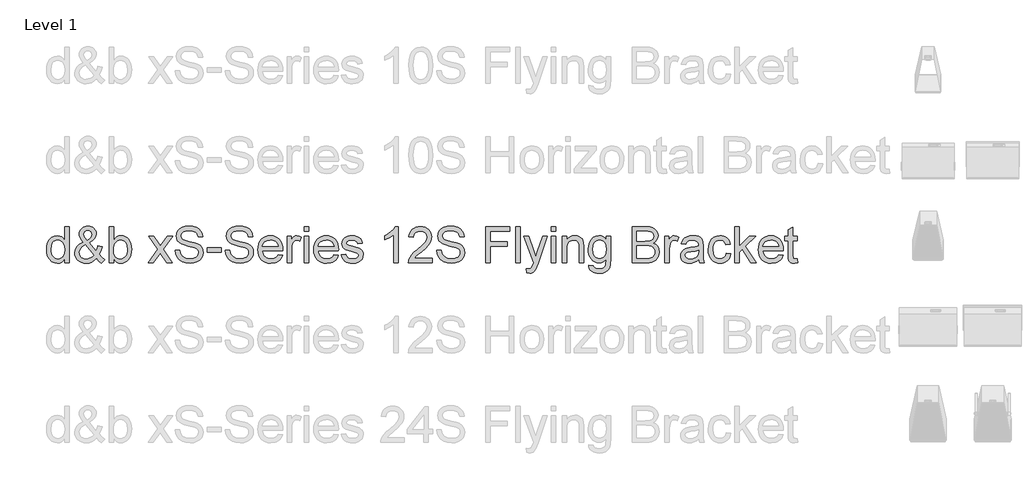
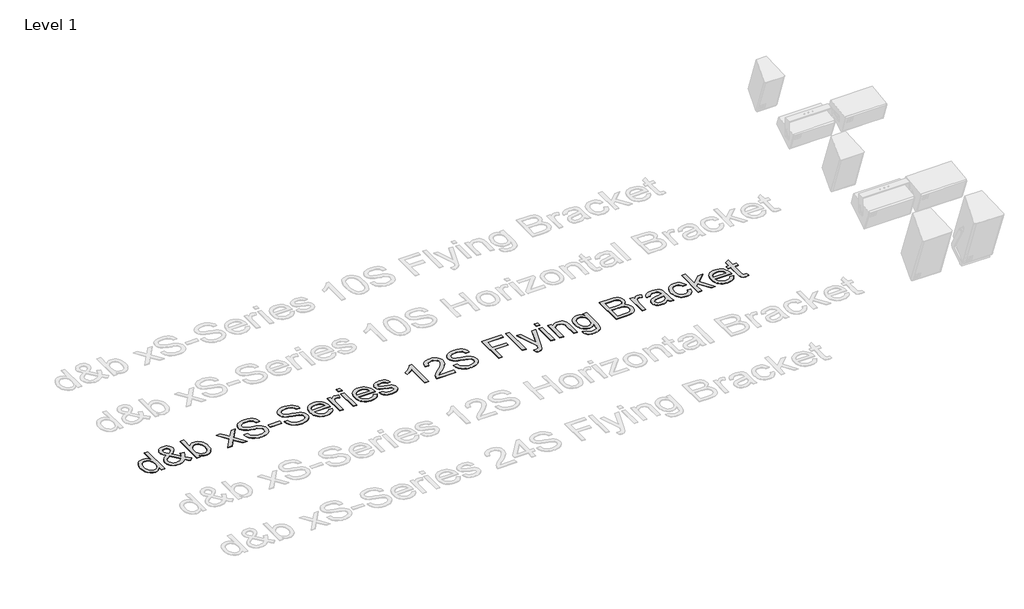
# One storey, part 34 of 55: 1 proxy.
"""IFC4 building model written with IfcOpenShell, lengths in millimetres."""

from ifc_helpers import new_model, si_unit, origin, origin_with_axes, place, context, project, spatial, polyline, outline, extrude, element, save

model = new_model("IFC4")

# Units and contexts
model_context = context("Model", 3, world=origin())
ifc_project = project(units=[si_unit("LENGTHUNIT", "METRE", prefix="MILLI")], contexts=[model_context])

# Site, building, storey
site = spatial("IfcSite", under=ifc_project)
building = spatial("IfcBuilding", under=site)
storey = spatial("IfcBuildingStorey", under=building, Name="Level 1", Elevation=0.0)

# Proxy
placement = place(None, origin())
element("IfcBuildingElementProxy", 1, Name="400mm Arial", ObjectType="400mm Arial", at=placement, inside=storey, context=model_context, shape_type="SweptSolid", body=[
    extrude(outline(polyline([(-20879.8211974, -1648.6945164), (-20879.8211974, -1601.3113154), (-20894.8491769, -1624.7883181), (-20913.0532043, -1641.5576057), (-20934.4332796, -1651.6191783), (-20958.9894028, -1654.9730358), (-20991.4611202, -1650.1169935), (-21021.1859854, -1635.5488665), (-21046.3491139, -1612.2864616), (-21065.1356211, -1581.3475858), (-21076.8342686, -1543.9830379), (-21080.7338177, -1501.4436165), (-21077.1408369, -1459.4314926), (-21066.3618944, -1421.4905962), (-21048.4092531, -1389.7791682), (-21023.2951755, -1366.4554497), (-20992.9203855, -1352.1080519), (-20959.1856065, -1347.325586), (-20934.6110892, -1350.7468885), (-20912.8815261, -1361.0107962), (-20894.4629008, -1376.7438829), (-20879.8211974, -1396.5727224), (-20879.8211974, -1246.8692758), (-20829.5930424, -1246.8692758), (-20829.5930424, -1648.6945164), (-20879.8211974, -1648.6945164)]), holes=[polyline([(-21030.5056627, -1501.2474128), (-21029.089317, -1525.6042665), (-21024.8402799, -1546.6808392), (-21017.7585515, -1564.4771307), (-21007.8441318, -1578.9931411), (-20983.1469871, -1598.3069458), (-20969.2717046, -1603.135397), (-20954.3786151, -1604.7448807), (-20939.415015, -1603.2089734), (-20925.6225058, -1598.6012514), (-20901.5507606, -1580.1703635), (-20892.0440767, -1566.2613584), (-20885.2535882, -1549.1088603), (-20879.8211974, -1505.0733855), (-20885.3516901, -1456.9298951), (-20892.2648059, -1438.3947739), (-20901.9431681, -1423.5507354), (-20913.6448812, -1412.1770504), (-20926.6280499, -1404.0529896), (-20940.8926743, -1399.1785532), (-20956.4387543, -1397.5537411), (-20971.6261493, -1399.1141738), (-20985.5014319, -1403.7954722), (-20998.064602, -1411.5976362), (-21009.3156597, -1422.5206658), (-21018.586286, -1436.8036843), (-21025.2081619, -1454.6858149), (-21030.5056627, -1501.2474128)])]), origin_with_axes(), (0.0, 0.0, 1.0), 5.0),
    extrude(outline(polyline([(-20523.809528, -1599.0549725), (-20549.3405384, -1623.5191252), (-20577.0788409, -1640.99352), (-20607.0734862, -1651.4781569), (-20639.3735254, -1654.9730358), (-20668.6814577, -1652.3855991), (-20694.8010793, -1644.623289), (-20717.7323904, -1631.6861055), (-20737.4753908, -1613.5740486), (-20750.308341, -1596.2038871), (-20759.4747341, -1577.8404442), (-20764.9745699, -1558.4837198), (-20766.8078485, -1538.1337141), (-20760.9094739, -1502.9396699), (-20743.2143499, -1471.3263438), (-20713.796053, -1443.3182613), (-20672.7281596, -1418.9399477), (-20694.6416638, -1390.5885086), (-20707.7995765, -1368.1231814), (-20714.3846642, -1348.9442668), (-20716.5796934, -1330.4520651), (-20714.8506481, -1312.8979626), (-20709.6635119, -1296.5333452), (-20701.018285, -1281.3582129), (-20688.9149674, -1267.3725657), (-20674.1935562, -1255.6555241), (-20657.6940487, -1247.2862088), (-20639.4164449, -1242.2646195), (-20619.3607448, -1240.5907564), (-20600.212487, -1242.1910431), (-20582.8913764, -1246.9919032), (-20567.397413, -1254.9933366), (-20553.7305969, -1266.1953433), (-20542.5715097, -1279.6414302), (-20534.6007332, -1294.3751041), (-20529.8182672, -1310.396365), (-20528.2241119, -1327.7052129), (-20532.9452642, -1355.68877), (-20547.108721, -1381.563137), (-20570.7144823, -1405.3283139), (-20603.7625482, -1426.9843007), (-20531.069066, -1517.5323224), (-20518.6837055, -1491.6579554), (-20509.3885538, -1461.9085647), (-20459.1603987, -1472.7978718), (-20474.6114425, -1519.3226815), (-20494.6732739, -1555.4977443), (-20466.1256311, -1588.8033276), (-20434.0463211, -1616.3209009), (-20471.7174374, -1654.9730358), (-20497.3465498, -1631.52669), (-20523.809528, -1599.0549725)]), holes=[polyline([(-20557.4584678, -1562.8553842), (-20647.1235727, -1450.9211558), (-20681.3733865, -1472.7733463), (-20702.305872, -1493.0068561), (-20713.0112381, -1512.3329235), (-20716.5796934, -1531.4627873), (-20711.6991256, -1555.1543878), (-20697.0574222, -1579.7289051), (-20686.2784798, -1590.6733944), (-20673.4639236, -1598.4908868), (-20658.6137537, -1603.1813823), (-20641.7279702, -1604.7448807), (-20619.0051256, -1601.8263502), (-20595.5710425, -1593.0707588), (-20574.1480476, -1579.6798541), (-20557.4584678, -1562.8553842)]), polyline([(-20629.1709314, -1395.2973981), (-20602.9041569, -1378.6323438), (-20587.8700461, -1364.1500559), (-20580.8067117, -1350.0601755), (-20578.452267, -1334.5723435), (-20581.5547385, -1317.0243723), (-20590.862153, -1303.0325938), (-20604.829406, -1293.8723321), (-20621.9113933, -1290.8189115), (-20639.3612626, -1293.8478066), (-20653.6473468, -1302.9344919), (-20663.1754905, -1316.3867102), (-20666.3515384, -1332.5122043), (-20662.0350563, -1350.9063041), (-20648.9875082, -1371.360543), (-20629.1709314, -1395.2973981)])]), origin_with_axes(), (0.0, 0.0, 1.0), 5.0),
    extrude(outline(polyline([(-20333.590011, -1648.6945164), (-20383.8181661, -1648.6945164), (-20383.8181661, -1246.8692758), (-20333.590011, -1246.8692758), (-20333.590011, -1395.8860093), (-20317.0721094, -1374.6408241), (-20298.4204923, -1359.4656918), (-20277.6351595, -1350.3606124), (-20254.7161112, -1347.325586), (-20228.8417442, -1350.0601755), (-20204.3898543, -1358.263944), (-20182.758393, -1371.4218567), (-20165.3453119, -1389.0188788), (-20151.6968898, -1410.883332), (-20141.3594058, -1436.8435381), (-20134.8478945, -1465.8203766), (-20132.6773907, -1496.734727), (-20134.9245365, -1532.4070178), (-20141.6659741, -1563.7873519), (-20152.9017034, -1590.8757295), (-20168.6317244, -1613.6721505), (-20187.5132678, -1631.7412878), (-20208.2035643, -1644.6478145), (-20230.702614, -1652.3917305), (-20255.0104168, -1654.9730358), (-20278.6836232, -1651.6437038), (-20299.671291, -1641.6557076), (-20317.9734203, -1625.0090473), (-20333.590011, -1601.7037229), (-20333.590011, -1648.6945164)]), holes=[polyline([(-20333.590011, -1499.0891717), (-20330.1564457, -1540.9786682), (-20319.8557498, -1569.3301073), (-20307.6849872, -1584.8240707), (-20293.5399244, -1595.8911874), (-20277.4205617, -1602.5314574), (-20259.3268989, -1604.7448807), (-20244.3050508, -1603.1139372), (-20230.3377977, -1598.2211067), (-20217.4251396, -1590.0663891), (-20205.5670767, -1578.6497845), (-20195.6526569, -1564.0019498), (-20188.5709285, -1546.1535416), (-20184.3218914, -1525.1045601), (-20182.9055458, -1500.8550053), (-20188.3379366, -1454.8942814), (-20195.1284251, -1437.1010555), (-20204.6351089, -1422.7659205), (-20216.0670419, -1411.735592), (-20228.6332778, -1403.8567859), (-20242.3338164, -1399.1295023), (-20257.1686579, -1397.5537411), (-20272.190506, -1399.1846846), (-20286.1577591, -1404.0775151), (-20299.0704171, -1412.2322327), (-20310.9284801, -1423.6488372), (-20320.8428999, -1438.1495192), (-20327.9246283, -1455.556469), (-20332.1736653, -1475.8696865), (-20333.590011, -1499.0891717)])]), origin_with_axes(), (0.0, 0.0, 1.0), 5.0),
    extrude(outline(polyline([(-19950.6003285, -1648.6945164), (-19843.2768878, -1500.2663941), (-19944.3218092, -1353.6041054), (-19884.0872638, -1353.6041054), (-19835.3306367, -1424.3355503), (-19812.4729021, -1457.5920827), (-19792.6563253, -1430.3197641), (-19737.1306695, -1353.6041054), (-19676.6999204, -1353.6041054), (-19782.8461387, -1500.364496), (-19680.623995, -1648.6945164), (-19740.9566422, -1648.6945164), (-19802.5646137, -1559.4218189), (-19813.7482263, -1543.0388074), (-19890.1695795, -1648.6945164), (-19950.6003285, -1648.6945164)])), origin_with_axes(), (0.0, 0.0, 1.0), 5.0),
    extrude(outline(polyline([(-19649.2313981, -1510.56709), (-19599.003243, -1510.56709), (-19593.2397584, -1538.4402825), (-19582.8164352, -1560.844296), (-19566.556051, -1578.6252591), (-19543.2813835, -1592.6293004), (-19514.8318425, -1601.7159856), (-19483.0468381, -1604.7448807), (-19455.063281, -1602.4517496), (-19430.5623402, -1595.5723563), (-19410.7089752, -1584.6830493), (-19396.6681457, -1570.3601769), (-19388.3172244, -1553.9158517), (-19385.533584, -1536.6621862), (-19387.6182486, -1519.849979), (-19393.8722425, -1505.3186402), (-19406.5764341, -1492.9210169), (-19428.0116917, -1482.5099565), (-19501.1466323, -1463.3310418), (-19549.1552327, -1450.639113), (-19579.8733793, -1438.5603208), (-19604.8770922, -1421.6622745), (-19622.5967416, -1401.1835101), (-19633.1549549, -1377.565486), (-19636.6743593, -1351.2496606), (-19632.3210891, -1321.8313637), (-19619.2612782, -1294.3996296), (-19597.8382834, -1271.1494875), (-19568.395461, -1254.2759667), (-19533.054264, -1244.012059), (-19493.9361452, -1240.5907564), (-19451.5561394, -1244.1714745), (-19414.4736342, -1254.9136288), (-19384.013005, -1272.59649), (-19361.4986269, -1296.999329), (-19347.249331, -1326.6015669), (-19341.5839483, -1359.8826247), (-19391.8121033, -1359.8826247), (-19401.0336787, -1329.9125049), (-19409.3968627, -1318.0544419), (-19420.2616443, -1308.2810436), (-19450.3053406, -1295.1844445), (-19491.9741079, -1290.8189115), (-19534.6238939, -1295.1353936), (-19550.9271976, -1300.5309962), (-19563.8827752, -1308.0848398), (-19580.805347, -1327.1411272), (-19586.4462043, -1349.7781326), (-19582.4485532, -1369.0796746), (-19570.4556002, -1384.6042948), (-19542.1041611, -1398.4857088), (-19488.4424407, -1412.6614283), (-19433.0639377, -1426.1259093), (-19399.5621507, -1437.8736077), (-19370.9286687, -1456.0960292), (-19350.9526764, -1478.5858819), (-19339.2172408, -1505.097911), (-19335.3054289, -1535.3868619), (-19339.805852, -1566.3502632), (-19353.3071212, -1595.4742545), (-19375.2574136, -1620.5392811), (-19405.1049061, -1639.3257883), (-19440.9979261, -1651.0612239), (-19481.0848008, -1654.9730358), (-19530.2951491, -1650.7546556), (-19570.7989567, -1638.099515), (-19603.0622077, -1616.958563), (-19627.5508858, -1587.2827487), (-19643.2717098, -1551.1322113), (-19649.2313981, -1510.56709)])), origin_with_axes(), (0.0, 0.0, 1.0), 5.0),
    extrude(outline(polyline([(-19291.3557932, -1529.4026481), (-19291.3557932, -1479.174493), (-19134.3928086, -1479.174493), (-19134.3928086, -1529.4026481), (-19291.3557932, -1529.4026481)])), origin_with_axes(), (0.0, 0.0, 1.0), 5.0),
    extrude(outline(polyline([(-19090.4431729, -1510.56709), (-19040.2150178, -1510.56709), (-19034.4515332, -1538.4402825), (-19024.02821, -1560.844296), (-19007.7678258, -1578.6252591), (-18984.4931583, -1592.6293004), (-18956.0436173, -1601.7159856), (-18924.2586129, -1604.7448807), (-18896.2750558, -1602.4517496), (-18871.774115, -1595.5723563), (-18851.9207499, -1584.6830493), (-18837.8799205, -1570.3601769), (-18829.5289992, -1553.9158517), (-18826.7453587, -1536.6621862), (-18828.8300234, -1519.849979), (-18835.0840173, -1505.3186402), (-18847.7882089, -1492.9210169), (-18869.2234665, -1482.5099565), (-18942.3584071, -1463.3310418), (-18990.3670075, -1450.639113), (-19021.0851541, -1438.5603208), (-19046.088867, -1421.6622745), (-19063.8085164, -1401.1835101), (-19074.3667297, -1377.565486), (-19077.8861341, -1351.2496606), (-19073.5328638, -1321.8313637), (-19060.473053, -1294.3996296), (-19039.0500582, -1271.1494875), (-19009.6072358, -1254.2759667), (-18974.2660388, -1244.012059), (-18935.14792, -1240.5907564), (-18892.7679141, -1244.1714745), (-18855.685409, -1254.9136288), (-18825.2247798, -1272.59649), (-18802.7104017, -1296.999329), (-18788.4611058, -1326.6015669), (-18782.7957231, -1359.8826247), (-18833.0238781, -1359.8826247), (-18842.2454535, -1329.9125049), (-18850.6086375, -1318.0544419), (-18861.4734191, -1308.2810436), (-18891.5171154, -1295.1844445), (-18933.1858827, -1290.8189115), (-18975.8356687, -1295.1353936), (-18992.1389724, -1300.5309962), (-19005.09455, -1308.0848398), (-19022.0171218, -1327.1411272), (-19027.657979, -1349.7781326), (-19023.660328, -1369.0796746), (-19011.667375, -1384.6042948), (-18983.3159359, -1398.4857088), (-18929.6542155, -1412.6614283), (-18874.2757125, -1426.1259093), (-18840.7739255, -1437.8736077), (-18812.1404435, -1456.0960292), (-18792.1644512, -1478.5858819), (-18780.4290156, -1505.097911), (-18776.5172037, -1535.3868619), (-18781.0176267, -1566.3502632), (-18794.518896, -1595.4742545), (-18816.4691883, -1620.5392811), (-18846.3166809, -1639.3257883), (-18882.2097009, -1651.0612239), (-18922.2965756, -1654.9730358), (-18971.5069238, -1650.7546556), (-19012.0107315, -1638.099515), (-19044.2739825, -1616.958563), (-19068.7626606, -1587.2827487), (-19084.4834846, -1551.1322113), (-19090.4431729, -1510.56709)])), origin_with_axes(), (0.0, 0.0, 1.0), 5.0),
    extrude(outline(polyline([(-18500.850962, -1560.795245), (-18451.6038255, -1567.0737644), (-18459.1546035, -1586.7983707), (-18469.3480004, -1604.180795), (-18482.1840164, -1619.2210372), (-18497.6626513, -1631.9190974), (-18515.6244897, -1642.0051955), (-18535.9101161, -1649.2095512), (-18583.4527326, -1654.9730358), (-18614.618469, -1652.4867667), (-18642.3874282, -1645.0279592), (-18666.7596104, -1632.5966135), (-18687.7350155, -1615.1927294), (-18704.602405, -1593.300685), (-18716.6505403, -1567.4048582), (-18723.8794215, -1537.5052491), (-18726.2890486, -1503.6018575), (-18723.8548961, -1468.5488348), (-18716.5524385, -1437.6528785), (-18704.3816758, -1410.9139888), (-18687.342608, -1388.3321657), (-18666.4223852, -1370.3917871), (-18642.6081574, -1357.5772309), (-18615.8999246, -1349.8884972), (-18586.2976867, -1347.325586), (-18557.6488763, -1349.8823658), (-18531.7407868, -1357.5527054), (-18508.5734182, -1370.3366048), (-18488.1467704, -1388.2340638), (-18471.472519, -1410.766836), (-18459.5623394, -1437.4566748), (-18452.4162316, -1468.3035801), (-18450.0341957, -1503.3075519), (-18450.3285013, -1516.8456094), (-18676.0608935, -1516.8456094), (-18673.1515601, -1536.8890467), (-18667.3666157, -1554.4431493), (-18658.7060604, -1569.507917), (-18647.1698942, -1582.0833498), (-18633.3957791, -1591.9977696), (-18618.0213774, -1599.079498), (-18582.4717139, -1604.7448807), (-18555.7389556, -1602.1206558), (-18533.2245775, -1594.2479811), (-18514.9285796, -1580.6363473), (-18500.850962, -1560.795245)]), holes=[polyline([(-18676.0608935, -1466.6174543), (-18500.2623508, -1466.6174543), (-18507.0559049, -1440.0808997), (-18520.3732332, -1421.0981887), (-18534.0707061, -1410.7974929), (-18549.65664, -1403.439853), (-18567.1310348, -1399.025269), (-18586.4938904, -1397.5537411), (-18620.3512967, -1402.2503679), (-18648.3471166, -1416.3402483), (-18667.8080741, -1438.3028034), (-18676.0608935, -1466.6174543)])]), origin_with_axes(), (0.0, 0.0, 1.0), 5.0),
    extrude(outline(polyline([(-18399.8060406, -1648.6945164), (-18399.8060406, -1353.6041054), (-18355.8564049, -1353.6041054), (-18355.8564049, -1397.2594355), (-18339.6205462, -1371.9491542), (-18324.6600117, -1357.0376707), (-18309.6504263, -1349.7536071), (-18293.2674148, -1347.325586), (-18268.2514391, -1351.2006097), (-18242.843056, -1362.8256807), (-18259.618475, -1407.8544369), (-18277.2768108, -1400.128915), (-18294.9351465, -1397.5537411), (-18309.9324692, -1400.0308132), (-18323.3356365, -1407.4620295), (-18334.1636299, -1419.2833042), (-18341.4354307, -1434.9305518), (-18347.5422718, -1462.9876853), (-18349.5778855, -1493.5954673), (-18349.5778855, -1648.6945164), (-18399.8060406, -1648.6945164)])), origin_with_axes(), (0.0, 0.0, 1.0), 5.0),
    extrude(outline(polyline([(-18211.4504591, -1297.0974309), (-18211.4504591, -1246.8692758), (-18161.222304, -1246.8692758), (-18161.222304, -1297.0974309), (-18211.4504591, -1297.0974309)])), origin_with_axes(), (0.0, 0.0, 1.0), 5.0),
    extrude(outline(polyline([(-18211.4504591, -1648.6945164), (-18211.4504591, -1353.6041054), (-18161.222304, -1353.6041054), (-18161.222304, -1648.6945164), (-18211.4504591, -1648.6945164)])), origin_with_axes(), (0.0, 0.0, 1.0), 5.0),
    extrude(outline(polyline([(-17879.2775429, -1560.795245), (-17830.0304065, -1567.0737644), (-17837.5811844, -1586.7983707), (-17847.7745814, -1604.180795), (-17860.6105973, -1619.2210372), (-17876.0892323, -1631.9190974), (-17894.0510707, -1642.0051955), (-17914.336697, -1649.2095512), (-17961.8793136, -1654.9730358), (-17993.0450499, -1652.4867667), (-18020.8140092, -1645.0279592), (-18045.1861914, -1632.5966135), (-18066.1615965, -1615.1927294), (-18083.0289859, -1593.300685), (-18095.0771213, -1567.4048582), (-18102.3060025, -1537.5052491), (-18104.7156295, -1503.6018575), (-18102.281477, -1468.5488348), (-18094.9790194, -1437.6528785), (-18082.8082567, -1410.9139888), (-18065.769189, -1388.3321657), (-18044.8489662, -1370.3917871), (-18021.0347384, -1357.5772309), (-17994.3265055, -1349.8884972), (-17964.7242676, -1347.325586), (-17936.0754573, -1349.8823658), (-17910.1673678, -1357.5527054), (-17886.9999991, -1370.3366048), (-17866.5733513, -1388.2340638), (-17849.8990999, -1410.766836), (-17837.9889203, -1437.4566748), (-17830.8428126, -1468.3035801), (-17828.4607766, -1503.3075519), (-17828.7550822, -1516.8456094), (-18054.4874745, -1516.8456094), (-18051.578141, -1536.8890467), (-18045.7931967, -1554.4431493), (-18037.1326413, -1569.507917), (-18025.5964751, -1582.0833498), (-18011.8223601, -1591.9977696), (-17996.4479584, -1599.079498), (-17960.8982949, -1604.7448807), (-17934.1655366, -1602.1206558), (-17911.6511585, -1594.2479811), (-17893.3551606, -1580.6363473), (-17879.2775429, -1560.795245)]), holes=[polyline([(-18054.4874745, -1466.6174543), (-17878.6889317, -1466.6174543), (-17885.4824859, -1440.0808997), (-17898.7998141, -1421.0981887), (-17912.4972871, -1410.7974929), (-17928.0832209, -1403.439853), (-17945.5576157, -1399.025269), (-17964.9204714, -1397.5537411), (-17998.7778777, -1402.2503679), (-18026.7736975, -1416.3402483), (-18046.234655, -1438.3028034), (-18054.4874745, -1466.6174543)])]), origin_with_axes(), (0.0, 0.0, 1.0), 5.0),
    extrude(outline(polyline([(-17797.0681797, -1560.795245), (-17746.8400246, -1554.5167257), (-17738.918299, -1576.0010342), (-17723.5898825, -1591.7954345), (-17700.7566734, -1601.5075192), (-17670.3205696, -1604.7448807), (-17640.2523479, -1601.7772993), (-17619.1113959, -1592.874555), (-17606.6034081, -1579.9741597), (-17602.4340788, -1565.0136253), (-17606.6279335, -1552.2113318), (-17619.2094978, -1542.4501962), (-17670.9091808, -1528.1273239), (-17746.545719, -1503.5528066), (-17765.6878455, -1491.2042343), (-17779.5569967, -1474.858011), (-17787.9814944, -1455.556469), (-17790.7896603, -1434.3419406), (-17788.5333174, -1414.880983), (-17781.7642887, -1396.9160789), (-17771.0957109, -1381.1584668), (-17757.1407205, -1368.3193852), (-17725.2085633, -1353.4569526), (-17704.3251287, -1348.8584276), (-17681.9946916, -1347.325586), (-17649.302245, -1349.7903953), (-17620.8772295, -1357.1848234), (-17598.0194949, -1368.785369), (-17582.0288908, -1383.8685308), (-17571.4338893, -1403.5502176), (-17564.7629625, -1428.946338), (-17614.9911176, -1435.2248574), (-17621.3309506, -1419.4181943), (-17633.8757267, -1407.5110804), (-17652.748073, -1400.0430759), (-17678.070617, -1397.5537411), (-17706.9125654, -1399.9327113), (-17726.140531, -1407.069622), (-17736.9562617, -1417.3703179), (-17740.5615053, -1429.2406436), (-17734.5772915, -1443.8578215), (-17715.8398352, -1454.9433323), (-17672.5769125, -1465.6364356), (-17598.8533607, -1489.2789852), (-17579.3801404, -1500.5852252), (-17564.6158097, -1516.0607944), (-17555.3083952, -1535.7547439), (-17552.2059237, -1559.7161245), (-17555.8479555, -1584.4868455), (-17566.7740507, -1607.7860386), (-17584.5672766, -1627.7865564), (-17608.8107, -1642.6612517), (-17638.0941069, -1651.8950898), (-17671.0072827, -1654.9730358), (-17698.040478, -1653.4892451), (-17721.6523707, -1649.037873), (-17741.8429609, -1641.6189194), (-17758.6122485, -1631.2323844), (-17772.3097214, -1617.9273189), (-17783.2848676, -1601.7527738), (-17791.5376871, -1582.7087492), (-17797.0681797, -1560.795245)])), origin_with_axes(), (0.0, 0.0, 1.0), 5.0),
    extrude(outline(polyline([(-17162.9377219, -1648.6945164), (-17213.165877, -1648.6945164), (-17213.165877, -1335.5533621), (-17234.1351507, -1352.5127221), (-17260.7452817, -1369.4475566), (-17313.6221871, -1394.8068888), (-17313.6221871, -1347.325586), (-17274.1729745, -1325.8658029), (-17239.9967371, -1300.3347925), (-17213.0555124, -1273.1851012), (-17195.3113375, -1246.8692758), (-17162.9377219, -1246.8692758), (-17162.9377219, -1648.6945164)])), origin_with_axes(), (0.0, 0.0, 1.0), 5.0),
    extrude(outline(polyline([(-16786.2265588, -1598.4663614), (-16786.2265588, -1648.6945164), (-17049.924373, -1648.6945164), (-17048.820727, -1631.0116552), (-17044.5287704, -1614.0645579), (-17032.1311471, -1587.0007058), (-17013.9700393, -1560.7461941), (-16987.7155276, -1533.2654091), (-16951.0376927, -1502.522737), (-16896.8486748, -1454.3792466), (-16864.3646946, -1418.8418458), (-16848.1410986, -1389.9998974), (-16842.7332333, -1361.9427639), (-16847.846793, -1336.7918982), (-16863.1874722, -1315.8839381), (-16886.7687081, -1301.7940577), (-16916.6039379, -1297.0974309), (-16947.9352212, -1301.6836931), (-16972.2767465, -1315.4424797), (-16987.9853077, -1337.2946702), (-16993.4176985, -1366.1611441), (-17043.6458536, -1359.8826247), (-17039.3263058, -1333.9530755), (-17031.4689596, -1311.2976759), (-17020.0738147, -1291.9164261), (-17005.1408714, -1275.8093261), (-16987.0134861, -1263.1480541), (-16966.0350153, -1254.1042884), (-16942.2054591, -1248.678029), (-16915.5248174, -1246.8692758), (-16888.6050524, -1248.8803641), (-16864.6467375, -1254.9136288), (-16843.6498726, -1264.96907), (-16825.6144578, -1279.0466877), (-16811.1291042, -1296.1041495), (-16800.7824231, -1315.0991232), (-16794.5744144, -1336.0316087), (-16792.5050782, -1358.9016061), (-16794.7368957, -1382.9243004), (-16801.432348, -1406.5300617), (-16813.3149364, -1430.5404933), (-16831.1081622, -1455.7771982), (-16859.4718641, -1485.9067336), (-16903.0658805, -1524.5956567), (-16960.8478792, -1572.9108254), (-16983.5094101, -1598.4663614), (-16786.2265588, -1598.4663614)])), origin_with_axes(), (0.0, 0.0, 1.0), 5.0),
    extrude(outline(polyline([(-16735.9984038, -1510.56709), (-16685.7702487, -1510.56709), (-16680.0067641, -1538.4402825), (-16669.5834409, -1560.844296), (-16653.3230567, -1578.6252591), (-16630.0483891, -1592.6293004), (-16601.5988482, -1601.7159856), (-16569.8138438, -1604.7448807), (-16541.8302867, -1602.4517496), (-16517.3293458, -1595.5723563), (-16497.4759808, -1584.6830493), (-16483.4351513, -1570.3601769), (-16475.08423, -1553.9158517), (-16472.3005896, -1536.6621862), (-16474.3852543, -1519.849979), (-16480.6392482, -1505.3186402), (-16493.3434397, -1492.9210169), (-16514.7786973, -1482.5099565), (-16587.913638, -1463.3310418), (-16635.9222383, -1450.639113), (-16666.6403849, -1438.5603208), (-16691.6440979, -1421.6622745), (-16709.3637473, -1401.1835101), (-16719.9219606, -1377.565486), (-16723.441365, -1351.2496606), (-16719.0880947, -1321.8313637), (-16706.0282839, -1294.3996296), (-16684.605289, -1271.1494875), (-16655.1624667, -1254.2759667), (-16619.8212697, -1244.012059), (-16580.7031509, -1240.5907564), (-16538.323145, -1244.1714745), (-16501.2406399, -1254.9136288), (-16470.7800107, -1272.59649), (-16448.2656326, -1296.999329), (-16434.0163367, -1326.6015669), (-16428.3509539, -1359.8826247), (-16478.579109, -1359.8826247), (-16487.8006843, -1329.9125049), (-16496.1638684, -1318.0544419), (-16507.02865, -1308.2810436), (-16537.0723462, -1295.1844445), (-16578.7411136, -1290.8189115), (-16621.3908995, -1295.1353936), (-16637.6942033, -1300.5309962), (-16650.6497809, -1308.0848398), (-16667.5723527, -1327.1411272), (-16673.2132099, -1349.7781326), (-16669.2155589, -1369.0796746), (-16657.2226059, -1384.6042948), (-16628.8711668, -1398.4857088), (-16575.2094464, -1412.6614283), (-16519.8309434, -1426.1259093), (-16486.3291564, -1437.8736077), (-16457.6956744, -1456.0960292), (-16437.7196821, -1478.5858819), (-16425.9842464, -1505.097911), (-16422.0724345, -1535.3868619), (-16426.5728576, -1566.3502632), (-16440.0741268, -1595.4742545), (-16462.0244192, -1620.5392811), (-16491.8719118, -1639.3257883), (-16527.7649318, -1651.0612239), (-16567.8518065, -1654.9730358), (-16617.0621547, -1650.7546556), (-16657.5659624, -1638.099515), (-16689.8292134, -1616.958563), (-16714.3178915, -1587.2827487), (-16730.0387154, -1551.1322113), (-16735.9984038, -1510.56709)])), origin_with_axes(), (0.0, 0.0, 1.0), 5.0),
    extrude(outline(polyline([(-16189.7672173, -1648.6945164), (-16189.7672173, -1246.8692758), (-15919.7908838, -1246.8692758), (-15919.7908838, -1297.0974309), (-16139.5390622, -1297.0974309), (-16139.5390622, -1416.3892992), (-15951.1834807, -1416.3892992), (-15951.1834807, -1466.6174543), (-16139.5390622, -1466.6174543), (-16139.5390622, -1648.6945164), (-16189.7672173, -1648.6945164)])), origin_with_axes(), (0.0, 0.0, 1.0), 5.0),
    extrude(outline(polyline([(-15857.0056899, -1648.6945164), (-15857.0056899, -1246.8692758), (-15806.7775349, -1246.8692758), (-15806.7775349, -1648.6945164), (-15857.0056899, -1648.6945164)])), origin_with_axes(), (0.0, 0.0, 1.0), 5.0),
    extrude(outline(polyline([(-15731.4353023, -1761.7078653), (-15737.7138216, -1713.3436457), (-15712.2073366, -1717.7582297), (-15698.7919066, -1716.3725408), (-15688.3685834, -1712.2154743), (-15673.7514054, -1696.7644305), (-15660.0171443, -1659.7800272), (-15656.0930696, -1647.6153959), (-15762.8278992, -1353.6041054), (-15709.9509937, -1353.6041054), (-15653.2481156, -1517.5323224), (-15633.5296406, -1583.0643685), (-15613.8111657, -1525.086166), (-15555.6367595, -1353.6041054), (-15503.1522615, -1353.6041054), (-15605.8649146, -1655.7578507), (-15632.548622, -1721.2898968), (-15646.2093067, -1742.2101196), (-15661.684876, -1756.7046702), (-15679.6375173, -1765.1659561), (-15700.7294184, -1767.9863847), (-15731.4353023, -1761.7078653)])), origin_with_axes(), (0.0, 0.0, 1.0), 5.0),
    extrude(outline(polyline([(-15461.4589687, -1297.0974309), (-15461.4589687, -1246.8692758), (-15411.2308137, -1246.8692758), (-15411.2308137, -1297.0974309), (-15461.4589687, -1297.0974309)])), origin_with_axes(), (0.0, 0.0, 1.0), 5.0),
    extrude(outline(polyline([(-15461.4589687, -1648.6945164), (-15461.4589687, -1353.6041054), (-15411.2308137, -1353.6041054), (-15411.2308137, -1648.6945164), (-15461.4589687, -1648.6945164)])), origin_with_axes(), (0.0, 0.0, 1.0), 5.0),
    extrude(outline(polyline([(-15335.888581, -1648.6945164), (-15335.888581, -1353.6041054), (-15285.660426, -1353.6041054), (-15285.660426, -1394.8068888), (-15268.2105567, -1374.0338188), (-15247.2535457, -1359.1959117), (-15222.789393, -1350.2931674), (-15194.8180986, -1347.325586), (-15170.0596404, -1349.7168189), (-15147.3858467, -1356.8905179), (-15128.4767122, -1367.9515032), (-15115.0122311, -1382.0045954), (-15105.8764949, -1399.0130063), (-15099.9535948, -1418.9399477), (-15097.3048444, -1467.5003711), (-15097.3048444, -1648.6945164), (-15147.5329995, -1648.6945164), (-15147.5329995, -1474.2693998), (-15148.980002, -1448.2969309), (-15153.3210096, -1429.8292548), (-15161.3285743, -1416.5977657), (-15173.7752485, -1406.333858), (-15189.7290644, -1399.7487703), (-15208.2580542, -1397.5537411), (-15237.6763511, -1402.4833598), (-15262.7536404, -1417.272216), (-15272.7753591, -1429.3448768), (-15279.9337296, -1445.8443843), (-15284.2287519, -1466.7707384), (-15285.660426, -1492.1239393), (-15285.660426, -1648.6945164), (-15335.888581, -1648.6945164)])), origin_with_axes(), (0.0, 0.0, 1.0), 5.0),
    extrude(outline(polyline([(-15040.79817, -1673.808594), (-14990.5700149, -1680.0871133), (-14985.0272595, -1695.7834118), (-14974.2851053, -1706.574617), (-14953.1686787, -1714.9623265), (-14925.5284782, -1717.7582297), (-14896.0488676, -1714.5944445), (-14874.1231007, -1705.103089), (-14858.9173116, -1689.8972999), (-14849.5976344, -1669.5902138), (-14846.1640691, -1611.0234001), (-14862.8781744, -1627.5045135), (-14881.5297915, -1639.2767374), (-14902.1189205, -1646.3400717), (-14924.6455614, -1648.6945164), (-14952.1845944, -1645.9537956), (-14976.4310836, -1637.731633), (-14997.3850289, -1624.0280287), (-15015.0464303, -1604.8429826), (-15029.0596687, -1581.8258324), (-15039.0691246, -1556.6259158), (-15045.0747982, -1529.2432326), (-15047.0766894, -1499.6777829), (-15043.4837085, -1459.1249243), (-15032.7047661, -1421.8339527), (-15015.1200067, -1390.2328893), (-14991.1095752, -1366.7497553), (-14961.4950746, -1352.1816283), (-14927.098108, -1347.325586), (-14903.6088426, -1350.0724382), (-14882.290081, -1358.3129949), (-14863.1418231, -1372.0472561), (-14846.1640691, -1391.2752217), (-14846.1640691, -1353.6041054), (-14795.935914, -1353.6041054), (-14795.935914, -1608.3746498), (-14799.3694793, -1667.1989808), (-14809.6701751, -1705.9369549), (-14827.41435, -1731.6273809), (-14853.1783524, -1751.3090676), (-14886.3980966, -1763.8170555), (-14926.5094968, -1767.9863847), (-14951.1177366, -1766.5179224), (-14973.2427729, -1762.1125355), (-14992.8846058, -1754.7702241), (-15010.0432352, -1744.490988), (-15023.9031894, -1731.2625646), (-15033.6489965, -1715.0726911), (-15039.2806568, -1695.9213676), (-15040.79817, -1673.808594)]), holes=[polyline([(-14996.8485343, -1496.2442176), (-14991.4897199, -1542.3153062), (-14984.7912019, -1559.9521821), (-14975.4132767, -1573.9899459), (-14964.0120005, -1584.6983777), (-14951.2434296, -1592.3472575), (-14937.107564, -1596.9365854), (-14921.6044035, -1598.4663614), (-14906.2545273, -1596.9457824), (-14892.1861067, -1592.3840457), (-14879.3991416, -1584.7811511), (-14867.8936322, -1574.1370987), (-14858.3869484, -1560.2372907), (-14851.5964599, -1542.8671291), (-14846.1640691, -1497.7157456), (-14851.7558754, -1454.1707801), (-14858.7456333, -1436.9692312), (-14868.5312944, -1422.8149714), (-14880.2851241, -1411.7631831), (-14893.1793881, -1403.8690486), (-14907.2140862, -1399.1325679), (-14922.3892185, -1397.5537411), (-14937.3098991, -1399.1080425), (-14951.0717514, -1403.7709468), (-14975.1189711, -1422.4225639), (-14984.625655, -1436.3622259), (-14991.4161435, -1453.3123888), (-14996.8485343, -1496.2442176)])]), origin_with_axes(), (0.0, 0.0, 1.0), 5.0),
    extrude(outline(polyline([(-14557.3521774, -1648.6945164), (-14557.3521774, -1246.8692758), (-14404.0189618, -1246.8692758), (-14361.8474224, -1249.8245945), (-14328.9219838, -1258.6905506), (-14303.685279, -1273.6878733), (-14284.5799407, -1295.0372917), (-14272.5501995, -1320.1513693), (-14268.5402857, -1346.4426692), (-14271.9125373, -1370.6370417), (-14282.0292922, -1393.3844118), (-14298.9641267, -1413.2868277), (-14322.7906173, -1428.946338), (-14294.3288136, -1443.8087706), (-14273.2982262, -1466.4212506), (-14260.3119917, -1495.2877244), (-14255.9832469, -1528.9121388), (-14258.9385656, -1556.9324841), (-14267.8045217, -1582.9172157), (-14281.0360108, -1605.0146609), (-14297.0879285, -1621.3731469), (-14316.7450898, -1633.2189472), (-14340.7923096, -1641.7783349), (-14370.0144027, -1646.9654711), (-14405.1961842, -1648.6945164), (-14557.3521774, -1648.6945164)]), holes=[polyline([(-14507.1240223, -1598.4663614), (-14404.1170637, -1598.4663614), (-14366.8383548, -1596.504324), (-14335.2986051, -1585.5659661), (-14323.722585, -1576.1359242), (-14314.4029078, -1563.2477917), (-14308.2592785, -1547.4779168), (-14306.211402, -1529.4026481), (-14308.6148977, -1508.4088489), (-14315.8253848, -1490.3581057), (-14328.4192118, -1476.2436998), (-14346.9727271, -1467.0589127), (-14373.2517643, -1462.0189293), (-14409.0221569, -1460.3389349), (-14507.1240223, -1460.3389349), (-14507.1240223, -1598.4663614)]), polyline([(-14507.1240223, -1410.1107798), (-14415.3987782, -1410.1107798), (-14361.8351597, -1405.7942977), (-14343.0854407, -1398.3508187), (-14329.6086969, -1387.2039943), (-14321.4785048, -1372.5255026), (-14318.7684408, -1354.4870222), (-14321.2945638, -1336.9758392), (-14328.8729329, -1321.7209991), (-14341.1601916, -1309.8138852), (-14357.8129832, -1302.3458807), (-14383.3685191, -1298.4095434), (-14422.3640106, -1297.0974309), (-14507.1240223, -1297.0974309), (-14507.1240223, -1410.1107798)])]), origin_with_axes(), (0.0, 0.0, 1.0), 5.0),
    extrude(outline(polyline([(-14193.1980531, -1648.6945164), (-14193.1980531, -1353.6041054), (-14149.2484174, -1353.6041054), (-14149.2484174, -1397.2594355), (-14133.0125587, -1371.9491542), (-14118.0520242, -1357.0376707), (-14103.0424388, -1349.7536071), (-14086.6594273, -1347.325586), (-14061.6434516, -1351.2006097), (-14036.2350685, -1362.8256807), (-14053.0104875, -1407.8544369), (-14070.6688232, -1400.128915), (-14088.327159, -1397.5537411), (-14103.3244817, -1400.0308132), (-14116.727649, -1407.4620295), (-14127.5556424, -1419.2833042), (-14134.8274432, -1434.9305518), (-14140.9342843, -1462.9876853), (-14142.969898, -1493.5954673), (-14142.969898, -1648.6945164), (-14193.1980531, -1648.6945164)])), origin_with_axes(), (0.0, 0.0, 1.0), 5.0),
    extrude(outline(polyline([(-13816.48689, -1611.0234001), (-13840.4850589, -1631.6002664), (-13865.1944662, -1645.0647474), (-13891.1791978, -1652.4959637), (-13919.0033394, -1654.9730358), (-13941.367499, -1653.4831137), (-13960.978675, -1649.0133475), (-13977.8368674, -1641.5637371), (-13991.9420763, -1631.1342825), (-14003.0797037, -1618.3871714), (-14011.0351518, -1603.9845913), (-14015.8084207, -1587.9265422), (-14017.3995103, -1570.2130241), (-14014.9960146, -1549.3909032), (-14007.7855275, -1530.4817686), (-13996.6632285, -1514.2949609), (-13982.5242972, -1501.6398202), (-13965.9082937, -1492.0748883), (-13947.3547785, -1485.1587068), (-13903.8956521, -1477.6048632), (-13852.5393256, -1469.6586121), (-13816.7811956, -1460.3389349), (-13816.48689, -1449.1553222), (-13819.9449808, -1426.739046), (-13830.3192531, -1412.0728171), (-13853.5203442, -1401.1835101), (-13885.8449089, -1397.5537411), (-13915.7659778, -1399.9694995), (-13936.6616751, -1407.2167748), (-13950.9109711, -1420.6199422), (-13960.8928359, -1441.5033767), (-14011.1209909, -1435.2248574), (-14002.4021877, -1407.7563351), (-13989.3914278, -1386.1739247), (-13970.8747007, -1369.6682858), (-13945.6379958, -1357.4300781), (-13914.7726964, -1349.851709), (-13879.3701857, -1347.325586), (-13845.4146776, -1349.5574034), (-13818.4979783, -1356.2528557), (-13798.2031549, -1366.3205597), (-13784.1132745, -1378.669132), (-13774.7690718, -1393.9362348), (-13768.7112816, -1412.7595302), (-13766.258735, -1456.7091659), (-13766.258735, -1519.2000541), (-13763.7080865, -1606.4616634), (-13753.7016962, -1648.6945164), (-13803.9298513, -1648.6945164), (-13811.9742042, -1631.2323844), (-13816.48689, -1611.0234001)]), holes=[polyline([(-13816.48689, -1510.56709), (-13850.2339317, -1518.930274), (-13897.5190308, -1525.9690828), (-13940.7329025, -1534.1115377), (-13951.9778289, -1539.6788185), (-13960.3042247, -1547.3552895), (-13965.4545726, -1556.5523394), (-13967.1713553, -1566.681357), (-13963.4312216, -1581.617366), (-13952.2108208, -1593.8555737), (-13933.7554074, -1602.022554), (-13908.310236, -1604.7448807), (-13881.3322231, -1601.7405111), (-13857.4934698, -1592.7274022), (-13838.1674023, -1579.4468622), (-13824.7274467, -1563.6401991), (-13818.7677584, -1547.3552895), (-13816.7811956, -1524.7918605), (-13816.48689, -1510.56709)])]), origin_with_axes(), (0.0, 0.0, 1.0), 5.0),
    extrude(outline(polyline([(-13508.8394402, -1541.9596869), (-13458.6112851, -1548.2382063), (-13464.0743328, -1571.9390038), (-13472.6153264, -1592.9113432), (-13484.2342661, -1611.1552245), (-13498.9311518, -1626.6706476), (-13516.0867155, -1639.0529425), (-13535.0816892, -1647.8974388), (-13555.9160729, -1653.2041366), (-13578.5898665, -1654.9730358), (-13606.7604303, -1652.5051608), (-13632.0185949, -1645.1015356), (-13654.3643604, -1632.7621604), (-13673.7977268, -1615.487035), (-13689.5277478, -1593.601122), (-13700.7634771, -1567.4293837), (-13707.5049146, -1536.9718202), (-13709.7520605, -1502.2284314), (-13705.913825, -1457.530769), (-13694.3991186, -1418.7927949), (-13675.0240002, -1387.5105626), (-13647.6045288, -1365.1801255), (-13614.8017175, -1351.7892209), (-13579.2765795, -1347.325586), (-13556.9921277, -1348.8584276), (-13536.83526, -1353.4569526), (-13518.8059766, -1361.1211608), (-13502.9042773, -1371.8510523), (-13489.3999424, -1385.4013725), (-13478.562752, -1401.5268666), (-13470.392706, -1420.2275347), (-13464.8898045, -1441.5033767), (-13515.1179596, -1447.7818961), (-13524.2291703, -1425.8683919), (-13538.4171526, -1410.1598308), (-13556.8970915, -1400.7052635), (-13578.8841721, -1397.5537411), (-13595.950831, -1399.1049768), (-13611.3436268, -1403.758684), (-13625.0625595, -1411.5148628), (-13637.1076292, -1422.373513), (-13646.91475, -1436.5860207), (-13653.9198364, -1454.403772), (-13658.1228882, -1475.8267669), (-13659.5239054, -1500.8550053), (-13654.0424637, -1547.9316379), (-13647.1906615, -1565.8689509), (-13637.5981385, -1580.0722616), (-13625.7921922, -1590.8665325), (-13612.30012, -1598.576726), (-13597.121922, -1603.202842), (-13580.2575982, -1604.7448807), (-13554.2483411, -1600.8943825), (-13532.9234482, -1589.3428879), (-13517.4110907, -1569.7960912), (-13508.8394402, -1541.9596869)])), origin_with_axes(), (0.0, 0.0, 1.0), 5.0),
    extrude(outline(polyline([(-13414.6616494, -1648.6945164), (-13414.6616494, -1246.8692758), (-13364.4334944, -1246.8692758), (-13364.4334944, -1462.7914815), (-13251.8125529, -1353.6041054), (-13182.3564322, -1353.6041054), (-13296.4489017, -1464.1649076), (-13176.0779128, -1648.6945164), (-13234.7428283, -1648.6945164), (-13332.4522862, -1499.0891717), (-13364.4334944, -1530.187463), (-13364.4334944, -1648.6945164), (-13414.6616494, -1648.6945164)])), origin_with_axes(), (0.0, 0.0, 1.0), 5.0),
    extrude(outline(polyline([(-12925.5257486, -1560.795245), (-12876.2786122, -1567.0737644), (-12883.8293902, -1586.7983707), (-12894.0227871, -1604.180795), (-12906.8588031, -1619.2210372), (-12922.337438, -1631.9190974), (-12940.2992764, -1642.0051955), (-12960.5849028, -1649.2095512), (-13008.1275193, -1654.9730358), (-13039.2932557, -1652.4867667), (-13067.0622149, -1645.0279592), (-13091.4343971, -1632.5966135), (-13112.4098022, -1615.1927294), (-13129.2771917, -1593.300685), (-13141.325327, -1567.4048582), (-13148.5542082, -1537.5052491), (-13150.9638353, -1503.6018575), (-13148.5296828, -1468.5488348), (-13141.2272252, -1437.6528785), (-13129.0564625, -1410.9139888), (-13112.0173947, -1388.3321657), (-13091.0971719, -1370.3917871), (-13067.2829441, -1357.5772309), (-13040.5747113, -1349.8884972), (-13010.9724734, -1347.325586), (-12982.323663, -1349.8823658), (-12956.4155735, -1357.5527054), (-12933.2482049, -1370.3366048), (-12912.8215571, -1388.2340638), (-12896.1473057, -1410.766836), (-12884.2371261, -1437.4566748), (-12877.0910183, -1468.3035801), (-12874.7089824, -1503.3075519), (-12875.003288, -1516.8456094), (-13100.7356802, -1516.8456094), (-13097.8263468, -1536.8890467), (-13092.0414024, -1554.4431493), (-13083.3808471, -1569.507917), (-13071.8446809, -1582.0833498), (-13058.0705658, -1591.9977696), (-13042.6961641, -1599.079498), (-13007.1465006, -1604.7448807), (-12980.4137423, -1602.1206558), (-12957.8993642, -1594.2479811), (-12939.6033663, -1580.6363473), (-12925.5257486, -1560.795245)]), holes=[polyline([(-13100.7356802, -1466.6174543), (-12924.9371375, -1466.6174543), (-12931.7306916, -1440.0808997), (-12945.0480199, -1421.0981887), (-12958.7454928, -1410.7974929), (-12974.3314267, -1403.439853), (-12991.8058214, -1399.025269), (-13011.1686771, -1397.5537411), (-13045.0260834, -1402.2503679), (-13073.0219032, -1416.3402483), (-13092.4828608, -1438.3028034), (-13100.7356802, -1466.6174543)])]), origin_with_axes(), (0.0, 0.0, 1.0), 5.0),
    extrude(outline(polyline([(-12717.7459978, -1606.8050199), (-12711.4674784, -1650.1660444), (-12749.0404928, -1654.9730358), (-12773.1490262, -1652.8883712), (-12791.1261931, -1646.6343773), (-12803.8303846, -1636.995869), (-12812.1199923, -1624.7576613), (-12816.681729, -1603.7393366), (-12818.2023079, -1567.7604775), (-12818.2023079, -1403.8322604), (-12855.8734242, -1403.8322604), (-12855.8734242, -1353.6041054), (-12818.2023079, -1353.6041054), (-12818.2023079, -1281.8916418), (-12767.9741528, -1252.3629803), (-12767.9741528, -1353.6041054), (-12717.7459978, -1353.6041054), (-12717.7459978, -1403.8322604), (-12767.9741528, -1403.8322604), (-12767.9741528, -1566.2889495), (-12765.3254025, -1592.187842), (-12756.7414893, -1601.3603664), (-12739.6227138, -1604.7448807), (-12717.7459978, -1606.8050199)])), origin_with_axes(), (0.0, 0.0, 1.0), 5.0),
])

save(model, "model.ifc")
